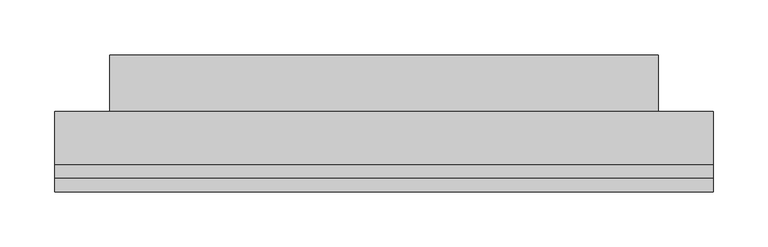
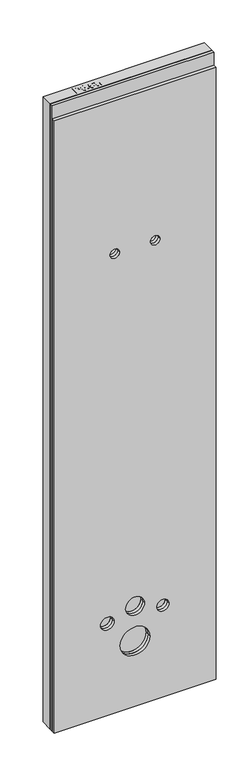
"""IFC4 building model written with IfcOpenShell, lengths in millimetres: proxy geometry, ParedeSanita_Blufab : Parede Sanita -Largura 60 cm."""

from ifc_helpers import new_model, si_unit, point, frame, frame_2d, origin, origin_with_axes, place, context, project, spatial, polyline, circle_curve, trimmed, segment, composite_curve, outline, extrude, source, transform, mapped, element, save


def generic_models_9f05e25b(model_context):
    return source(origin(), model_context, "Body", "SweptSolid", [
        extrude(outline(polyline([(550.0, 25.0126803), (50.0, 25.0126803), (50.0, 125.0126803), (550.0, 125.0126803), (550.0, 25.0126803)])), origin_with_axes(), (0.0, 0.0, 1.0), 1000.0),
        extrude(outline(polyline([(2450.0, 600.0), (2450.0, 0.0), (0.0, 0.0), (0.0, 600.0), (2450.0, 600.0)]), holes=[composite_curve([segment(trimmed(circle_curve(frame_2d((360.0, 403.0)), 22.5), [point((360.0, 425.5))], [point((360.0, 380.5))], True, "CARTESIAN"), True, "CONTINUOUS"), segment(trimmed(circle_curve(frame_2d((360.0, 403.0)), 22.5), [point((360.0, 380.5))], [point((360.0, 425.5))], True, "CARTESIAN"), True, "CONTINUOUS")], self_intersect=False), composite_curve([segment(trimmed(circle_curve(frame_2d((360.0, 197.0)), 25.0), [point((360.0, 222.0))], [point((360.0, 172.0))], True, "CARTESIAN"), True, "CONTINUOUS"), segment(trimmed(circle_curve(frame_2d((360.0, 197.0)), 25.0), [point((360.0, 172.0))], [point((360.0, 222.0))], True, "CARTESIAN"), True, "CONTINUOUS")], self_intersect=False), composite_curve([segment(trimmed(circle_curve(frame_2d((1800.0, 225.0)), 17.5), [point((1800.0, 242.5))], [point((1800.0, 207.5))], True, "CARTESIAN"), True, "CONTINUOUS"), segment(trimmed(circle_curve(frame_2d((1800.0, 225.0)), 17.5), [point((1800.0, 207.5))], [point((1800.0, 242.5))], True, "CARTESIAN"), True, "CONTINUOUS")], self_intersect=False), composite_curve([segment(trimmed(circle_curve(frame_2d((1800.0, 375.0)), 17.5), [point((1800.0, 392.5))], [point((1800.0, 357.5))], True, "CARTESIAN"), True, "CONTINUOUS"), segment(trimmed(circle_curve(frame_2d((1800.0, 375.0)), 17.5), [point((1800.0, 357.5))], [point((1800.0, 392.5))], True, "CARTESIAN"), True, "CONTINUOUS")], self_intersect=False), composite_curve([segment(trimmed(circle_curve(frame_2d((393.0, 300.0)), 35.0), [point((393.0, 335.0))], [point((393.0, 265.0))], True, "CARTESIAN"), True, "CONTINUOUS"), segment(trimmed(circle_curve(frame_2d((393.0, 300.0)), 35.0), [point((393.0, 265.0))], [point((393.0, 335.0))], True, "CARTESIAN"), True, "CONTINUOUS")], self_intersect=False), composite_curve([segment(trimmed(circle_curve(frame_2d((256.0, 300.0)), 55.0), [point((256.0, 355.0))], [point((256.0, 245.0))], True, "CARTESIAN"), True, "CONTINUOUS"), segment(trimmed(circle_curve(frame_2d((256.0, 300.0)), 55.0), [point((256.0, 245.0))], [point((256.0, 355.0))], True, "CARTESIAN"), True, "CONTINUOUS")], self_intersect=False)]), frame((0.0, 25.0126803, 0.0), z_axis=(0.0, 1.0, 0.0), x_axis=(0.0, 0.0, 1.0)), (0.0, 0.0, 1.0), 47.9873197),
        extrude(outline(polyline([(2450.0, 600.0), (2450.0, 0.0), (0.0, 0.0), (0.0, 600.0), (2450.0, 600.0)]), holes=[composite_curve([segment(trimmed(circle_curve(frame_2d((360.0, 403.0)), 22.5), [point((360.0, 425.5))], [point((360.0, 380.5))], True, "CARTESIAN"), True, "CONTINUOUS"), segment(trimmed(circle_curve(frame_2d((360.0, 403.0)), 22.5), [point((360.0, 380.5))], [point((360.0, 425.5))], True, "CARTESIAN"), True, "CONTINUOUS")], self_intersect=False), composite_curve([segment(trimmed(circle_curve(frame_2d((360.0, 197.0)), 25.0), [point((360.0, 222.0))], [point((360.0, 172.0))], True, "CARTESIAN"), True, "CONTINUOUS"), segment(trimmed(circle_curve(frame_2d((360.0, 197.0)), 25.0), [point((360.0, 172.0))], [point((360.0, 222.0))], True, "CARTESIAN"), True, "CONTINUOUS")], self_intersect=False), composite_curve([segment(trimmed(circle_curve(frame_2d((1800.0, 225.0)), 17.5), [point((1800.0, 242.5))], [point((1800.0, 207.5))], True, "CARTESIAN"), True, "CONTINUOUS"), segment(trimmed(circle_curve(frame_2d((1800.0, 225.0)), 17.5), [point((1800.0, 207.5))], [point((1800.0, 242.5))], True, "CARTESIAN"), True, "CONTINUOUS")], self_intersect=False), composite_curve([segment(trimmed(circle_curve(frame_2d((1800.0, 375.0)), 17.5), [point((1800.0, 392.5))], [point((1800.0, 357.5))], True, "CARTESIAN"), True, "CONTINUOUS"), segment(trimmed(circle_curve(frame_2d((1800.0, 375.0)), 17.5), [point((1800.0, 357.5))], [point((1800.0, 392.5))], True, "CARTESIAN"), True, "CONTINUOUS")], self_intersect=False), composite_curve([segment(trimmed(circle_curve(frame_2d((393.0, 300.0)), 35.0), [point((393.0, 335.0))], [point((393.0, 265.0))], True, "CARTESIAN"), True, "CONTINUOUS"), segment(trimmed(circle_curve(frame_2d((393.0, 300.0)), 35.0), [point((393.0, 265.0))], [point((393.0, 335.0))], True, "CARTESIAN"), True, "CONTINUOUS")], self_intersect=False), composite_curve([segment(trimmed(circle_curve(frame_2d((256.0, 300.0)), 55.0), [point((256.0, 355.0))], [point((256.0, 245.0))], True, "CARTESIAN"), True, "CONTINUOUS"), segment(trimmed(circle_curve(frame_2d((256.0, 300.0)), 55.0), [point((256.0, 245.0))], [point((256.0, 355.0))], True, "CARTESIAN"), True, "CONTINUOUS")], self_intersect=False)]), frame((0.0, 12.5126803, 0.0), z_axis=(0.0, 1.0, 0.0), x_axis=(0.0, 0.0, 1.0)), (0.0, 0.0, 1.0), 12.5),
        extrude(outline(polyline([(2400.0, 600.0), (2400.0, 0.0), (0.0, 0.0), (0.0, 600.0), (2400.0, 600.0)]), holes=[composite_curve([segment(trimmed(circle_curve(frame_2d((360.0, 403.0)), 22.5), [point((360.0, 425.5))], [point((360.0, 380.5))], True, "CARTESIAN"), True, "CONTINUOUS"), segment(trimmed(circle_curve(frame_2d((360.0, 403.0)), 22.5), [point((360.0, 380.5))], [point((360.0, 425.5))], True, "CARTESIAN"), True, "CONTINUOUS")], self_intersect=False), composite_curve([segment(trimmed(circle_curve(frame_2d((360.0, 197.0)), 25.0), [point((360.0, 222.0))], [point((360.0, 172.0))], True, "CARTESIAN"), True, "CONTINUOUS"), segment(trimmed(circle_curve(frame_2d((360.0, 197.0)), 25.0), [point((360.0, 172.0))], [point((360.0, 222.0))], True, "CARTESIAN"), True, "CONTINUOUS")], self_intersect=False), composite_curve([segment(trimmed(circle_curve(frame_2d((1800.0, 225.0)), 17.5), [point((1800.0, 242.5))], [point((1800.0, 207.5))], True, "CARTESIAN"), True, "CONTINUOUS"), segment(trimmed(circle_curve(frame_2d((1800.0, 225.0)), 17.5), [point((1800.0, 207.5))], [point((1800.0, 242.5))], True, "CARTESIAN"), True, "CONTINUOUS")], self_intersect=False), composite_curve([segment(trimmed(circle_curve(frame_2d((1800.0, 375.0)), 17.5), [point((1800.0, 392.5))], [point((1800.0, 357.5))], True, "CARTESIAN"), True, "CONTINUOUS"), segment(trimmed(circle_curve(frame_2d((1800.0, 375.0)), 17.5), [point((1800.0, 357.5))], [point((1800.0, 392.5))], True, "CARTESIAN"), True, "CONTINUOUS")], self_intersect=False), composite_curve([segment(trimmed(circle_curve(frame_2d((393.0, 300.0)), 35.0), [point((393.0, 335.0))], [point((393.0, 265.0))], True, "CARTESIAN"), True, "CONTINUOUS"), segment(trimmed(circle_curve(frame_2d((393.0, 300.0)), 35.0), [point((393.0, 265.0))], [point((393.0, 335.0))], True, "CARTESIAN"), True, "CONTINUOUS")], self_intersect=False), composite_curve([segment(trimmed(circle_curve(frame_2d((256.0, 300.0)), 55.0), [point((256.0, 355.0))], [point((256.0, 245.0))], True, "CARTESIAN"), True, "CONTINUOUS"), segment(trimmed(circle_curve(frame_2d((256.0, 300.0)), 55.0), [point((256.0, 245.0))], [point((256.0, 355.0))], True, "CARTESIAN"), True, "CONTINUOUS")], self_intersect=False)]), frame((0.0, 0.0, 0.0), z_axis=(0.0, 1.0, 0.0), x_axis=(0.0, 0.0, 1.0)), (0.0, 0.0, 1.0), 12.5),
        extrude(outline(polyline([(102.4402157, 34.0063401), (102.4402157, 64.1432332), (113.609113, 64.1432332), (118.1119887, 63.8562852), (121.7724145, 62.4472972), (124.1452534, 59.5336718), (125.0428854, 55.4244299), (122.6185431, 48.9129186), (113.8666304, 46.2494529), (106.2073273, 46.2494529), (106.2073273, 34.0063401), (102.4402157, 34.0063401)]), holes=[polyline([(106.2073273, 50.0165646), (114.0873596, 50.0165646), (119.6350201, 51.3998009), (121.2757738, 55.2919924), (120.3082442, 58.4116317), (117.7661796, 60.1186041), (113.999068, 60.3761215), (106.2073273, 60.3761215), (106.2073273, 50.0165646)])]), origin_with_axes(), (0.0, 0.0, 1.0), 2450.0),
        extrude(outline(polyline([(128.8099971, 44.3658971), (132.5771087, 44.3658971), (133.7911193, 40.5951067), (136.7562482, 38.2112313), (141.2738391, 37.3025628), (145.2101764, 37.9905021), (147.752241, 39.8814156), (148.5873331, 42.4087649), (147.9619337, 44.7595308), (145.4014751, 46.4701821), (139.9163545, 47.9086007), (134.0118485, 49.7664048), (130.8075963, 52.5696656), (129.751775, 56.3147043), (131.0577561, 60.5784566), (134.8726924, 63.5877314), (140.457141, 64.6141221), (146.4168294, 63.5399067), (150.3899549, 60.3834792), (151.8835558, 55.667232), (148.1164442, 55.667232), (145.9827286, 59.5373506), (140.6042938, 60.8470105), (135.2111438, 59.5520659), (133.5188866, 56.4250689), (134.7181819, 53.8131067), (140.8691689, 51.7088217), (147.5351906, 49.8179083), (151.1809012, 46.7644877), (152.3544448, 42.5044142), (151.0043178, 37.9978598), (147.119484, 34.7089947), (141.4209919, 33.5354512), (134.6924302, 34.8009652), (130.4360355, 38.6122227), (128.8099971, 44.3658971)])), origin_with_axes(), (0.0, 0.0, 1.0), 2450.0),
        extrude(outline(polyline([(175.8988925, 56.138121), (172.1317808, 55.667232), (170.7043987, 58.8089442), (166.9299294, 60.3761215), (163.5306998, 59.4637742), (160.9592046, 56.0387928), (159.888668, 49.3249464), (163.2106424, 52.3305423), (167.327242, 53.3127872), (173.7283887, 50.6272487), (176.3697814, 43.6889942), (175.1263403, 38.4908216), (171.7050377, 34.8120017), (166.7680613, 33.5354512), (159.0903641, 36.9199655), (156.1215564, 48.0741476), (159.4177791, 60.7072153), (167.1653739, 64.1432332), (173.1177046, 62.0168752), (175.8988925, 56.138121)]), holes=[polyline([(159.888668, 43.7478554), (160.7605484, 40.4847421), (163.0782049, 38.115582), (166.4737557, 37.3025628), (170.9140914, 38.9874623), (172.6026698, 43.5639144), (170.9361643, 47.9453889), (166.3192453, 49.5456756), (161.7611874, 47.9453889), (159.888668, 43.7478554)])]), origin_with_axes(), (0.0, 0.0, 1.0), 2450.0),
        extrude(outline(polyline([(179.6660041, 48.8319845), (180.7733289, 57.5029632), (184.0621939, 62.5024795), (189.5546721, 64.1432332), (193.9545408, 63.1720247), (196.9932461, 60.3724427), (198.7590796, 55.9137129), (199.4433402, 48.8319845), (198.3470518, 40.1977941), (195.0692232, 35.1872413), (189.5546721, 33.5354512), (182.6679212, 36.4049307), (179.6660041, 48.8319845)]), holes=[polyline([(183.4331157, 48.8393422), (185.1989493, 39.484103), (189.5546721, 37.3025628), (193.9103949, 39.4914607), (195.6762285, 48.8393422), (193.9692561, 58.0878955), (189.5105263, 60.3761215), (185.2578104, 58.3601282), (183.4331157, 48.8393422)])]), origin_with_axes(), (0.0, 0.0, 1.0), 2450.0),
    ])


if __name__ == "__main__":
    model = new_model("IFC4")
    model_context = context("Model", 3, world=origin())
    ifc_project = project(units=[si_unit("LENGTHUNIT", "METRE", prefix="MILLI")], contexts=[model_context])
    site = spatial("IfcSite", under=ifc_project)
    building = spatial("IfcBuilding", under=site)
    placement = place(None, origin())
    generic_models_shape = generic_models_9f05e25b(model_context)
    element("IfcBuildingElementProxy", 1, Name="ParedeSanita_Blufab : Parede Sanita -Largura 60 cm", ObjectType="ParedeSanita_Blufab : Parede Sanita -Largura 60 cm", at=placement, inside=building, context=model_context, shape_type="MappedRepresentation", body=[
        mapped(generic_models_shape, transform((0.0, 0.0, 0.0), x_axis=(1.0, 0.0, 0.0), y_axis=(0.0, 1.0, 0.0), z_axis=(0.0, 0.0, 1.0))),
    ])
    save(model, "model.ifc")
